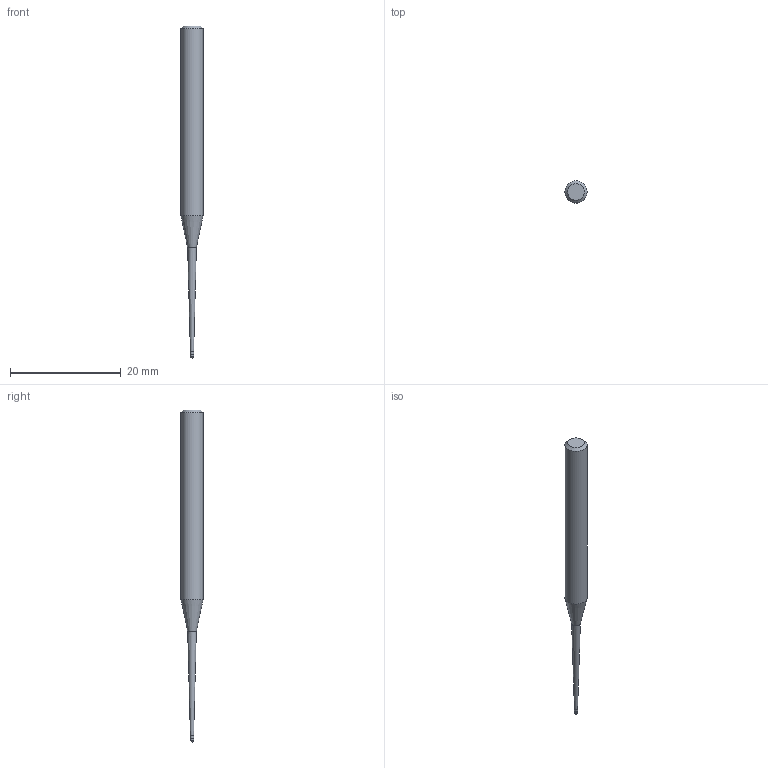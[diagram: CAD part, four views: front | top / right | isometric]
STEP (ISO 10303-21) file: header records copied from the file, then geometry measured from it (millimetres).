
FILE_DESCRIPTION((''),'2;1');
FILE_NAME('C:\Users\nsx150\AppData\Local\Temp\Mastercam 2021\SNAKH10GOD\TEMP.step','2021-10-21T13:31:35',(''),(''),'STEP Write','Mastercam 2021 ... CNC Software, Inc.','');
FILE_SCHEMA(('AUTOMOTIVE_DESIGN'));
Length unit declared in the file: millimetre
Products named in the file (1): None
Bounding box: 4 x 4 x 60 mm (x, y, z)
Volume: 485.5 mm3; surface area: 557.4 mm2
Topology: 2 solids, 2 shells, 10 faces, 16 edges, 9 vertices
Faces by surface type: plane 3, cylinder 3, cone 3, sphere 1
Full cylindrical faces by diameter (mm): 0.585 x1, 0.6 x1, 4 x1
Entity records: 232 total; most frequent: DIRECTION 40, CARTESIAN_POINT 28, AXIS2_PLACEMENT_3D 20, ORIENTED_EDGE 16, EDGE_LOOP 16, STYLED_ITEM 13, ADVANCED_FACE 10, FACE_BOUND 9
